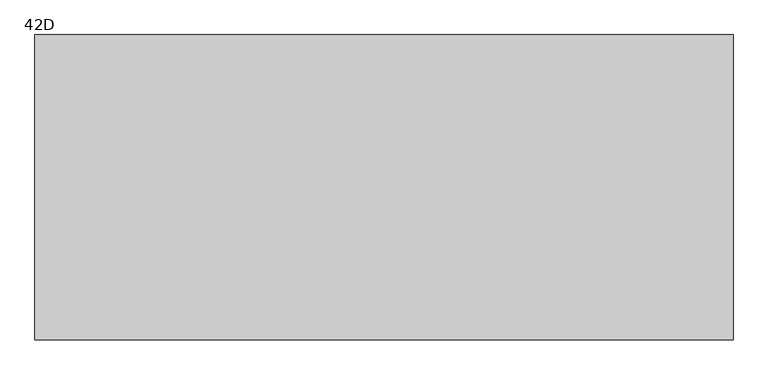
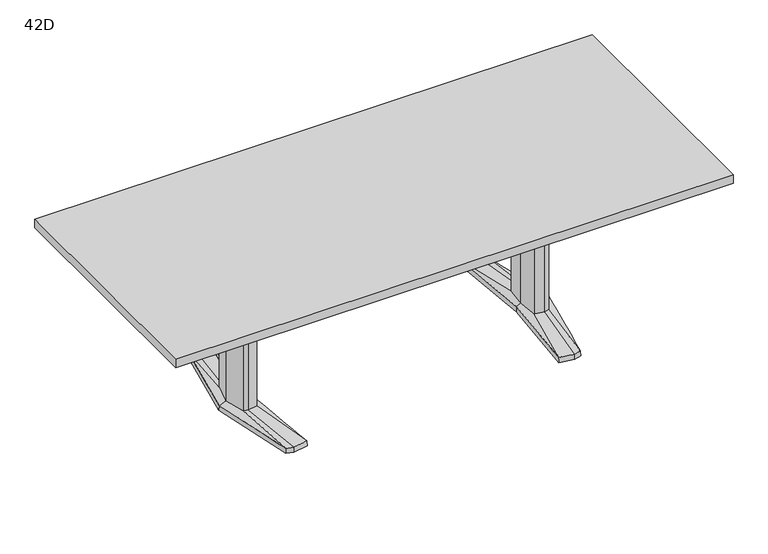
"""IFC4 building model written with IfcOpenShell, lengths in millimetres: furniture geometry, Coalesse_AM_Table_Conference_ETable2_Rectangular_96in_AluminiumBase : 42D."""

from ifc_helpers import new_model, si_unit, frame, origin, place, context, project, spatial, polyline, outline, extrude, source, transform, mapped, element, save
from ifc_brep_helpers import plane_surface, spline_surface, advanced_brep


def furniture_42d_aea06602(model_context):
    return source(origin(), model_context, "Body", "SolidModel", [
        advanced_brep(
        [(614.8503471, -379.3768856, 25.4), (644.5756636, -371.5332654, 25.4), (668.2327243, -89.293702, 36.5125), (648.9795254, -94.605478, 36.5125), (606.0521001, -87.0529327, 36.5125), (551.7612538, -368.5071562, 25.4), (597.9364207, 0.0, 36.5125), (579.8389754, 0.3970149, 25.4), (606.0521001, 87.0529327, 36.5125), (551.7615002, 368.5172593, 25.4), (648.9795254, 94.605478, 36.5125), (614.8502233, 379.3769183, 25.4), (668.2327243, 89.293702, 36.5125), (644.7535458, 371.4863276, 25.4), (692.1595251, 0.0, 36.5125), (721.4851663, 0.0003516, 25.4), (578.2468742, 0.3968871, 3.175), (550.06875, 369.8367279, 3.175), (614.9213004, 381.0, 3.175), (646.1093245, 372.7704151, 3.175), (723.10625, 0.0, 3.175), (645.9309817, -372.8174744, 3.175), (614.9213004, -381.0, 3.175), (550.06875, -369.8264415, 3.175), (649.5979264, 107.6121478, 3.175), (594.3065451, 97.8843184, 3.175), (585.1810887, 0.0, 3.175), (594.3065451, -97.8843184, 3.175), (649.5979264, -107.6121478, 3.175), (678.6183473, -99.6056872, 3.175), (705.3083085, 0.0, 3.175), (678.6183473, 99.6056872, 3.175), (613.4286812, 346.9152841, 3.175), (557.7811371, 337.3364985, 3.175), (560.1889918, 324.8641942, 3.175), (612.8600644, 333.9306305, 3.175), (648.6725609, 324.4807859, 3.175), (647.5544526, 337.9105158, 3.175), (613.4286812, -346.9152841, 3.175), (647.5544526, -337.9105158, 3.175), (648.6725609, -324.4807859, 3.175), (612.8600644, -333.9306305, 3.175), (560.1889918, -324.8641942, 3.175), (557.7811371, -337.3364985, 3.175), (649.5979264, 107.6121478, 0.0), (678.6183473, 99.6056872, 0.0), (705.3083085, 0.0, 0.0), (678.6183473, -99.6056872, 0.0), (649.5979264, -107.6121478, 0.0), (594.3065451, -97.8843184, 0.0), (585.1810887, 0.0, 0.0), (594.3065451, 97.8843184, 0.0), (613.4286812, 346.9152841, 0.0), (647.5544526, 337.9105158, 0.0), (648.6725609, 324.4807859, 0.0), (612.8600644, 333.9306305, 0.0), (560.1889918, 324.8641942, 0.0), (557.7811371, 337.3364985, 0.0), (613.4286812, -346.9152841, 0.0), (557.7811371, -337.3364985, 0.0), (560.1889918, -324.8641942, 0.0), (612.8600644, -333.9306305, 0.0), (648.6725609, -324.4807859, 0.0), (647.5544526, -337.9105158, 0.0), (668.2327243, 89.293702, 698.5), (648.9795254, 94.605478, 698.5), (606.0521001, 87.0529327, 698.5), (597.9364207, 0.0, 698.5), (606.0521001, -87.0529327, 698.5), (648.9795254, -94.605478, 698.5), (668.2327243, -89.293702, 698.5), (692.1595251, 0.0, 698.5)],
        [
            (0, 1),
            (1, 2),
            (2, 3),
            (3, 0),
            (3, 4),
            (4, 5),
            (5, 0),
            (4, 6),
            (6, 7),
            (7, 5),
            (6, 8),
            (8, 9),
            (9, 7),
            (8, 10),
            (10, 11),
            (11, 9),
            (10, 12),
            (12, 13),
            (13, 11),
            (12, 14),
            (14, 15),
            (15, 13),
            (1, 15),
            (14, 2),
            (16, 17),
            (17, 18),
            (18, 19),
            (19, 20),
            (20, 21),
            (21, 22),
            (22, 23),
            (23, 16),
            (24, 25),
            (25, 26),
            (26, 27),
            (27, 28),
            (28, 29),
            (29, 30),
            (30, 31),
            (31, 24),
            (32, 33),
            (33, 34),
            (34, 35),
            (35, 36),
            (36, 37),
            (37, 32),
            (38, 39),
            (39, 40),
            (40, 41),
            (41, 42),
            (42, 43),
            (43, 38),
            (16, 7),
            (9, 17),
            (11, 18),
            (13, 19),
            (15, 20),
            (1, 21),
            (0, 22),
            (5, 23),
            (44, 45),
            (45, 46),
            (46, 47),
            (47, 48),
            (48, 49),
            (49, 50),
            (50, 51),
            (51, 44),
            (52, 53),
            (53, 54),
            (54, 55),
            (55, 56),
            (56, 57),
            (57, 52),
            (58, 59),
            (59, 60),
            (60, 61),
            (61, 62),
            (62, 63),
            (63, 58),
            (44, 24),
            (31, 45),
            (30, 46),
            (29, 47),
            (28, 48),
            (27, 49),
            (26, 50),
            (25, 51),
            (52, 32),
            (37, 53),
            (36, 54),
            (35, 55),
            (34, 56),
            (33, 57),
            (58, 38),
            (43, 59),
            (42, 60),
            (41, 61),
            (40, 62),
            (39, 63),
            (64, 65),
            (65, 66),
            (66, 67),
            (67, 68),
            (68, 69),
            (69, 70),
            (70, 71),
            (71, 64),
            (71, 14),
            (12, 64),
            (70, 2),
            (69, 3),
            (68, 4),
            (67, 6),
            (66, 8),
            (65, 10),
        ],
        [
            spline_surface(1, 1, [[(644.5756636, -371.5332654, 25.4), (614.8503471, -379.3768856, 25.4)], [(668.2327243, -89.293702, 36.5125), (648.9795254, -94.605478, 36.5125)]], [2, 2], [2, 2], [0.0, 1.0], [0.0, 1.0]),
            spline_surface(1, 1, [[(614.8503471, -379.3768856, 25.4), (551.7612538, -368.5071562, 25.4)], [(648.9795254, -94.605478, 36.5125), (606.0521001, -87.0529327, 36.5125)]], [2, 2], [2, 2], [0.0, 1.0], [0.0, 1.0]),
            spline_surface(1, 1, [[(551.7612538, -368.5071562, 25.4), (579.8389754, 0.3970149, 25.4)], [(606.0521001, -87.0529327, 36.5125), (597.9364207, 0.0, 36.5125)]], [2, 2], [2, 2], [0.0, 1.0], [0.0, 1.0]),
            spline_surface(1, 1, [[(579.8389754, 0.3970149, 25.4), (551.7615002, 368.5172593, 25.4)], [(597.9364207, 0.0, 36.5125), (606.0521001, 87.0529327, 36.5125)]], [2, 2], [2, 2], [0.0, 1.0], [0.0, 1.0]),
            spline_surface(1, 1, [[(551.7615002, 368.5172593, 25.4), (614.8502233, 379.3769183, 25.4)], [(606.0521001, 87.0529327, 36.5125), (648.9795254, 94.605478, 36.5125)]], [2, 2], [2, 2], [0.0, 1.0], [0.0, 1.0]),
            spline_surface(1, 1, [[(614.8502233, 379.3769183, 25.4), (644.7535458, 371.4863276, 25.4)], [(648.9795254, 94.605478, 36.5125), (668.2327243, 89.293702, 36.5125)]], [2, 2], [2, 2], [0.0, 1.0], [0.0, 1.0]),
            spline_surface(1, 1, [[(644.7535458, 371.4863276, 25.4), (721.4851663, 0.0003516, 25.4)], [(668.2327243, 89.293702, 36.5125), (692.1595251, 0.0, 36.5125)]], [2, 2], [2, 2], [0.0, 1.0], [0.0, 1.0]),
            spline_surface(1, 1, [[(721.4851663, 0.0003516, 25.4), (644.5756636, -371.5332654, 25.4)], [(692.1595251, 0.0, 36.5125), (668.2327243, -89.293702, 36.5125)]], [2, 2], [2, 2], [0.0, 1.0], [0.0, 1.0]),
            plane_surface(frame((615.4216914, 0.0450143, 3.175), z_axis=(0.0, 0.0, -1.0), x_axis=(-0.9669048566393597, -0.2551372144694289, 0.0))),
            plane_surface(frame((564.1578121, 185.1168075, 3.175), z_axis=(-0.9945699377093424, -0.07585840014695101, 0.0712470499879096), x_axis=(-0.07605167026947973, 0.9971038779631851, 0.0))),
            plane_surface(frame((582.4950252, 375.418364, 3.175), z_axis=(-0.1692071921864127, 0.9830019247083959, 0.07124704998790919), x_axis=(0.985506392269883, 0.16963829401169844, 0.0))),
            plane_surface(frame((630.5153124, 376.8852076, 3.175), z_axis=(0.2544888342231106, 0.9644476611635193, 0.07124704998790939), x_axis=(0.9669048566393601, -0.25513721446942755, 0.0))),
            plane_surface(frame((684.6077872, 186.3852076, 3.175), z_axis=(0.9768383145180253, 0.2017690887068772, 0.07124704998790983), x_axis=(0.20228315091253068, -0.9793270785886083, 0.0))),
            plane_surface(frame((684.5186158, -186.4087372, 3.175), z_axis=(0.9767507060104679, -0.20219276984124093, 0.07124704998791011), x_axis=(-0.2027079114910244, -0.9792392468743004, 0.0))),
            plane_surface(frame((630.426141, -376.9087372, 3.175), z_axis=(0.2544888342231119, -0.9644476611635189, 0.0712470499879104), x_axis=(-0.9669048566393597, -0.2551372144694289, 0.0))),
            plane_surface(frame((582.4950252, -375.4132207, 3.175), z_axis=(-0.16935861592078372, -0.982975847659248, 0.07124704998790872), x_axis=(-0.9854802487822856, 0.16979010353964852, 0.0))),
            plane_surface(frame((564.1578121, -184.7147772, 3.175), z_axis=(-0.9945820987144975, 0.07569878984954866, 0.07124704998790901), x_axis=(0.07589165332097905, 0.9971160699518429, 0.0))),
            plane_surface(frame((652.3571479, 106.8509046, 0.0), z_axis=(0.0, 0.0, -1.0000000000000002), x_axis=(-0.9639855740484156, 0.26595453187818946, 0.0))),
            plane_surface(frame((649.5979264, 107.6121478, 3.175), z_axis=(0.26595453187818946, 0.9639855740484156, 0.0), x_axis=(0.0, 0.0, -1.0))),
            plane_surface(frame((678.6183473, 99.6056872, 3.175), z_axis=(0.9659241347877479, 0.2588253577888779, 0.0), x_axis=(0.0, 0.0, -1.0))),
            plane_surface(frame((705.3083085, 0.0, 3.175), z_axis=(0.9659241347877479, -0.2588253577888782, 0.0), x_axis=(0.0, 0.0, -1.0))),
            plane_surface(frame((678.6183473, -99.6056872, 3.175), z_axis=(0.26595453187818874, -0.9639855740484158, 0.0), x_axis=(0.0, 0.0, -1.0))),
            plane_surface(frame((649.5979264, -107.6121478, 3.175), z_axis=(-0.17327617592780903, -0.9848732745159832, 0.0), x_axis=(0.0, 0.0, -1.0))),
            plane_surface(frame((594.3065451, -97.8843184, 3.175), z_axis=(-0.9956824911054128, -0.0928244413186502, 0.0), x_axis=(0.0, 0.0, -1.0))),
            plane_surface(frame((585.1810887, 0.0, 3.175), z_axis=(-0.9956824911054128, 0.09282444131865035, 0.0), x_axis=(0.0, 0.0, -1.0))),
            plane_surface(frame((594.3065451, 97.8843184, 3.175), z_axis=(-0.17327617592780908, 0.984873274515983, 0.0), x_axis=(0.0, 0.0, -1.0))),
            plane_surface(frame((613.4286812, 346.9152841, 3.175), z_axis=(0.25513721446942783, 0.9669048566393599, 0.0), x_axis=(0.0, 0.0, -1.0))),
            plane_surface(frame((647.5544526, 337.9105158, 3.175), z_axis=(0.9965521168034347, 0.0829691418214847, 0.0), x_axis=(0.0, 0.0, -1.0))),
            plane_surface(frame((648.6725609, 324.4807859, 3.175), z_axis=(-0.25513721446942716, -0.9669048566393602, 0.0), x_axis=(0.0, 0.0, -1.0))),
            plane_surface(frame((612.8600644, 333.9306305, 3.175), z_axis=(0.16963829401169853, -0.985506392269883, 0.0), x_axis=(0.0, 0.0, -1.0))),
            plane_surface(frame((560.1889918, 324.8641942, 3.175), z_axis=(-0.9818699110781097, -0.18955600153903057, 0.0), x_axis=(0.0, 0.0, -1.0))),
            plane_surface(frame((557.7811371, 337.3364985, 3.175), z_axis=(-0.16963829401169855, 0.9855063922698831, 0.0), x_axis=(0.0, 0.0, -1.0))),
            plane_surface(frame((613.4286812, -346.9152841, 3.175), z_axis=(-0.1696382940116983, -0.9855063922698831, 0.0), x_axis=(0.0, 0.0, -1.0))),
            plane_surface(frame((557.7811371, -337.3364985, 3.175), z_axis=(-0.9818699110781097, 0.18955600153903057, 0.0), x_axis=(0.0, 0.0, -1.0))),
            plane_surface(frame((560.1889918, -324.8641942, 3.175), z_axis=(0.16963829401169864, 0.985506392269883, 0.0), x_axis=(0.0, 0.0, -1.0))),
            plane_surface(frame((612.8600644, -333.9306305, 3.175), z_axis=(-0.2551372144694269, 0.9669048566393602, 0.0), x_axis=(0.0, 0.0, -1.0))),
            plane_surface(frame((648.6725609, -324.4807859, 3.175), z_axis=(0.9965521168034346, -0.0829691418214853, 0.0), x_axis=(0.0, 0.0, -1.0))),
            plane_surface(frame((647.5544526, -337.9105158, 3.175), z_axis=(0.2551372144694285, -0.9669048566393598, 0.0), x_axis=(0.0, 0.0, -1.0))),
            plane_surface(frame((692.1595251, 0.0, 698.5), z_axis=(0.0, 0.0, 1.0), x_axis=(0.25882535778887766, -0.965924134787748, 0.0))),
            plane_surface(frame((668.2327243, 89.293702, 698.5), z_axis=(0.965924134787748, 0.25882535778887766, 0.0), x_axis=(0.0, 0.0, -1.0))),
            plane_surface(frame((692.1595251, 0.0, 698.5), z_axis=(0.965924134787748, -0.2588253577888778, 0.0), x_axis=(0.0, 0.0, -1.0))),
            plane_surface(frame((668.2327243, -89.293702, 698.5), z_axis=(0.2659545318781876, -0.963985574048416, 0.0), x_axis=(0.0, 0.0, -1.0))),
            plane_surface(frame((648.9795254, -94.605478, 698.5), z_axis=(-0.1732761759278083, -0.9848732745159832, 0.0), x_axis=(0.0, 0.0, -1.0))),
            plane_surface(frame((606.0521001, -87.0529327, 698.5), z_axis=(-0.9956824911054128, -0.0928244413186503, 0.0), x_axis=(0.0, 0.0, -1.0))),
            plane_surface(frame((597.9364207, 0.0, 698.5), z_axis=(-0.9956824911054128, 0.09282444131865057, 0.0), x_axis=(0.0, 0.0, -1.0))),
            plane_surface(frame((606.0521001, 87.0529327, 698.5), z_axis=(-0.17327617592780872, 0.9848732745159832, 0.0), x_axis=(0.0, 0.0, -1.0))),
            plane_surface(frame((648.9795254, 94.605478, 698.5), z_axis=(0.26595453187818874, 0.9639855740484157, 0.0), x_axis=(0.0, 0.0, -1.0))),
        ],
        [
            (0, [[1, 2, 3, 4]]),
            (1, [[5, 6, 7, -4]]),
            (2, [[8, 9, 10, -6]]),
            (3, [[11, 12, 13, -9]]),
            (4, [[14, 15, 16, -12]]),
            (5, [[17, 18, 19, -15]]),
            (6, [[20, 21, 22, -18]]),
            (7, [[23, -21, 24, -2]]),
            (8, [[25, 26, 27, 28, 29, 30, 31, 32], [33, 34, 35, 36, 37, 38, 39, 40], [41, 42, 43, 44, 45, 46], [47, 48, 49, 50, 51, 52]]),
            (9, [[53, -13, 54, -25]]),
            (10, [[-54, -16, 55, -26]]),
            (11, [[-55, -19, 56, -27]]),
            (12, [[-56, -22, 57, -28]]),
            (13, [[-57, -23, 58, -29]]),
            (14, [[-58, -1, 59, -30]]),
            (15, [[-59, -7, 60, -31]]),
            (16, [[-60, -10, -53, -32]]),
            (17, [[61, 62, 63, 64, 65, 66, 67, 68]]),
            (17, [[69, 70, 71, 72, 73, 74]]),
            (17, [[75, 76, 77, 78, 79, 80]]),
            (18, [[81, -40, 82, -61]]),
            (19, [[-82, -39, 83, -62]]),
            (20, [[-83, -38, 84, -63]]),
            (21, [[-84, -37, 85, -64]]),
            (22, [[-85, -36, 86, -65]]),
            (23, [[-86, -35, 87, -66]]),
            (24, [[-87, -34, 88, -67]]),
            (25, [[-88, -33, -81, -68]]),
            (26, [[89, -46, 90, -69]]),
            (27, [[-90, -45, 91, -70]]),
            (28, [[-91, -44, 92, -71]]),
            (29, [[-92, -43, 93, -72]]),
            (30, [[-93, -42, 94, -73]]),
            (31, [[-94, -41, -89, -74]]),
            (32, [[95, -52, 96, -75]]),
            (33, [[-96, -51, 97, -76]]),
            (34, [[-97, -50, 98, -77]]),
            (35, [[-98, -49, 99, -78]]),
            (36, [[-99, -48, 100, -79]]),
            (37, [[-100, -47, -95, -80]]),
            (38, [[101, 102, 103, 104, 105, 106, 107, 108]]),
            (39, [[109, -20, 110, -108]]),
            (40, [[111, -24, -109, -107]]),
            (41, [[112, -3, -111, -106]]),
            (42, [[113, -5, -112, -105]]),
            (43, [[114, -8, -113, -104]]),
            (44, [[115, -11, -114, -103]]),
            (45, [[116, -14, -115, -102]]),
            (46, [[-110, -17, -116, -101]]),
        ],
    ),
        advanced_brep(
        [(-614.8503471, -379.3768856, 25.4), (-648.9795254, -94.605478, 36.5125), (-668.2327243, -89.293702, 36.5125), (-644.5756636, -371.5332654, 25.4), (-551.7612538, -368.5071562, 25.4), (-606.0521001, -87.0529327, 36.5125), (-579.8389754, 0.3970149, 25.4), (-597.9364207, 0.0, 36.5125), (-551.7615002, 368.5172593, 25.4), (-606.0521001, 87.0529327, 36.5125), (-614.8502233, 379.3769183, 25.4), (-648.9795254, 94.605478, 36.5125), (-644.7535458, 371.4863276, 25.4), (-668.2327243, 89.293702, 36.5125), (-721.4851663, 0.0003516, 25.4), (-692.1595251, 0.0, 36.5125), (-578.2468742, 0.3968871, 3.175), (-550.06875, -369.8264415, 3.175), (-614.9213004, -381.0, 3.175), (-645.9309817, -372.8174744, 3.175), (-723.10625, 0.0, 3.175), (-646.1093245, 372.7704151, 3.175), (-614.9213004, 381.0, 3.175), (-550.06875, 369.8367279, 3.175), (-649.5979264, 107.6121478, 3.175), (-678.6183473, 99.6056872, 3.175), (-705.3083085, 0.0, 3.175), (-678.6183473, -99.6056872, 3.175), (-649.5979264, -107.6121478, 3.175), (-594.3065451, -97.8843184, 3.175), (-585.1810887, 0.0, 3.175), (-594.3065451, 97.8843184, 3.175), (-613.4286812, 346.9152841, 3.175), (-647.5544526, 337.9105158, 3.175), (-648.6725609, 324.4807859, 3.175), (-612.8600644, 333.9306305, 3.175), (-560.1889918, 324.8641942, 3.175), (-557.7811371, 337.3364985, 3.175), (-613.4286812, -346.9152841, 3.175), (-557.7811371, -337.3364985, 3.175), (-560.1889918, -324.8641942, 3.175), (-612.8600644, -333.9306305, 3.175), (-648.6725609, -324.4807859, 3.175), (-647.5544526, -337.9105158, 3.175), (-649.5979264, 107.6121478, 0.0), (-594.3065451, 97.8843184, 0.0), (-585.1810887, 0.0, 0.0), (-594.3065451, -97.8843184, 0.0), (-649.5979264, -107.6121478, 0.0), (-678.6183473, -99.6056872, 0.0), (-705.3083085, 0.0, 0.0), (-678.6183473, 99.6056872, 0.0), (-613.4286812, 346.9152841, 0.0), (-557.7811371, 337.3364985, 0.0), (-560.1889918, 324.8641942, 0.0), (-612.8600644, 333.9306305, 0.0), (-648.6725609, 324.4807859, 0.0), (-647.5544526, 337.9105158, 0.0), (-613.4286812, -346.9152841, 0.0), (-647.5544526, -337.9105158, 0.0), (-648.6725609, -324.4807859, 0.0), (-612.8600644, -333.9306305, 0.0), (-560.1889918, -324.8641942, 0.0), (-557.7811371, -337.3364985, 0.0), (-668.2327243, 89.293702, 698.5), (-692.1595251, 0.0, 698.5), (-668.2327243, -89.293702, 698.5), (-648.9795254, -94.605478, 698.5), (-606.0521001, -87.0529327, 698.5), (-597.9364207, 0.0, 698.5), (-606.0521001, 87.0529327, 698.5), (-648.9795254, 94.605478, 698.5)],
        [
            (0, 1),
            (1, 2),
            (2, 3),
            (3, 0),
            (0, 4),
            (4, 5),
            (5, 1),
            (4, 6),
            (6, 7),
            (7, 5),
            (6, 8),
            (8, 9),
            (9, 7),
            (8, 10),
            (10, 11),
            (11, 9),
            (10, 12),
            (12, 13),
            (13, 11),
            (12, 14),
            (14, 15),
            (15, 13),
            (2, 15),
            (14, 3),
            (16, 17),
            (17, 18),
            (18, 19),
            (19, 20),
            (20, 21),
            (21, 22),
            (22, 23),
            (23, 16),
            (24, 25),
            (25, 26),
            (26, 27),
            (27, 28),
            (28, 29),
            (29, 30),
            (30, 31),
            (31, 24),
            (32, 33),
            (33, 34),
            (34, 35),
            (35, 36),
            (36, 37),
            (37, 32),
            (38, 39),
            (39, 40),
            (40, 41),
            (41, 42),
            (42, 43),
            (43, 38),
            (23, 8),
            (6, 16),
            (22, 10),
            (21, 12),
            (20, 14),
            (19, 3),
            (18, 0),
            (17, 4),
            (44, 45),
            (45, 46),
            (46, 47),
            (47, 48),
            (48, 49),
            (49, 50),
            (50, 51),
            (51, 44),
            (52, 53),
            (53, 54),
            (54, 55),
            (55, 56),
            (56, 57),
            (57, 52),
            (58, 59),
            (59, 60),
            (60, 61),
            (61, 62),
            (62, 63),
            (63, 58),
            (51, 25),
            (24, 44),
            (50, 26),
            (49, 27),
            (48, 28),
            (47, 29),
            (46, 30),
            (45, 31),
            (57, 33),
            (32, 52),
            (56, 34),
            (55, 35),
            (54, 36),
            (53, 37),
            (63, 39),
            (38, 58),
            (62, 40),
            (61, 41),
            (60, 42),
            (59, 43),
            (64, 65),
            (65, 66),
            (66, 67),
            (67, 68),
            (68, 69),
            (69, 70),
            (70, 71),
            (71, 64),
            (64, 13),
            (15, 65),
            (2, 66),
            (1, 67),
            (5, 68),
            (7, 69),
            (9, 70),
            (11, 71),
        ],
        [
            spline_surface(1, 1, [[(-644.5756636, -371.5332654, 25.4), (-668.2327243, -89.293702, 36.5125)], [(-614.8503471, -379.3768856, 25.4), (-648.9795254, -94.605478, 36.5125)]], [2, 2], [2, 2], [0.0, 1.0], [0.0, 1.0]),
            spline_surface(1, 1, [[(-614.8503471, -379.3768856, 25.4), (-648.9795254, -94.605478, 36.5125)], [(-551.7612538, -368.5071562, 25.4), (-606.0521001, -87.0529327, 36.5125)]], [2, 2], [2, 2], [0.0, 1.0], [0.0, 1.0]),
            spline_surface(1, 1, [[(-551.7612538, -368.5071562, 25.4), (-606.0521001, -87.0529327, 36.5125)], [(-579.8389754, 0.3970149, 25.4), (-597.9364207, 0.0, 36.5125)]], [2, 2], [2, 2], [0.0, 1.0], [0.0, 1.0]),
            spline_surface(1, 1, [[(-579.8389754, 0.3970149, 25.4), (-597.9364207, 0.0, 36.5125)], [(-551.7615002, 368.5172593, 25.4), (-606.0521001, 87.0529327, 36.5125)]], [2, 2], [2, 2], [0.0, 1.0], [0.0, 1.0]),
            spline_surface(1, 1, [[(-551.7615002, 368.5172593, 25.4), (-606.0521001, 87.0529327, 36.5125)], [(-614.8502233, 379.3769183, 25.4), (-648.9795254, 94.605478, 36.5125)]], [2, 2], [2, 2], [0.0, 1.0], [0.0, 1.0]),
            spline_surface(1, 1, [[(-614.8502233, 379.3769183, 25.4), (-648.9795254, 94.605478, 36.5125)], [(-644.7535458, 371.4863276, 25.4), (-668.2327243, 89.293702, 36.5125)]], [2, 2], [2, 2], [0.0, 1.0], [0.0, 1.0]),
            spline_surface(1, 1, [[(-644.7535458, 371.4863276, 25.4), (-668.2327243, 89.293702, 36.5125)], [(-721.4851663, 0.0003516, 25.4), (-692.1595251, 0.0, 36.5125)]], [2, 2], [2, 2], [0.0, 1.0], [0.0, 1.0]),
            spline_surface(1, 1, [[(-721.4851663, 0.0003516, 25.4), (-692.1595251, 0.0, 36.5125)], [(-644.5756636, -371.5332654, 25.4), (-668.2327243, -89.293702, 36.5125)]], [2, 2], [2, 2], [0.0, 1.0], [0.0, 1.0]),
            plane_surface(frame((-615.4216914, 0.0450143, 3.175), z_axis=(0.0, 0.0, -1.0), x_axis=(0.9669048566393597, -0.2551372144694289, 0.0))),
            plane_surface(frame((-564.1578121, 185.1168075, 3.175), z_axis=(0.9945699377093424, -0.07585840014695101, 0.0712470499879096), x_axis=(0.07605167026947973, 0.9971038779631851, 0.0))),
            plane_surface(frame((-582.4950252, 375.418364, 3.175), z_axis=(0.1692071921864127, 0.9830019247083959, 0.07124704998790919), x_axis=(-0.985506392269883, 0.16963829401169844, 0.0))),
            plane_surface(frame((-630.5153124, 376.8852076, 3.175), z_axis=(-0.2544888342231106, 0.9644476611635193, 0.07124704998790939), x_axis=(-0.9669048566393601, -0.25513721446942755, 0.0))),
            plane_surface(frame((-684.6077872, 186.3852076, 3.175), z_axis=(-0.9768383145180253, 0.2017690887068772, 0.07124704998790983), x_axis=(-0.20228315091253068, -0.9793270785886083, 0.0))),
            plane_surface(frame((-684.5186158, -186.4087372, 3.175), z_axis=(-0.9767507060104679, -0.20219276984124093, 0.07124704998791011), x_axis=(0.2027079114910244, -0.9792392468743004, 0.0))),
            plane_surface(frame((-630.426141, -376.9087372, 3.175), z_axis=(-0.2544888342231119, -0.9644476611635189, 0.0712470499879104), x_axis=(0.9669048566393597, -0.2551372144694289, 0.0))),
            plane_surface(frame((-582.4950252, -375.4132207, 3.175), z_axis=(0.16935861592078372, -0.982975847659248, 0.07124704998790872), x_axis=(0.9854802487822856, 0.16979010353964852, 0.0))),
            plane_surface(frame((-564.1578121, -184.7147772, 3.175), z_axis=(0.9945820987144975, 0.07569878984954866, 0.07124704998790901), x_axis=(-0.07589165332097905, 0.9971160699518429, 0.0))),
            plane_surface(frame((-652.3571479, 106.8509046, 0.0), z_axis=(0.0, 0.0, -1.0000000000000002), x_axis=(0.9639855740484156, 0.26595453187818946, 0.0))),
            plane_surface(frame((-649.5979264, 107.6121478, 3.175), z_axis=(-0.26595453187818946, 0.9639855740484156, 0.0), x_axis=(0.0, 0.0, -1.0))),
            plane_surface(frame((-678.6183473, 99.6056872, 3.175), z_axis=(-0.9659241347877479, 0.2588253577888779, 0.0), x_axis=(0.0, 0.0, -1.0))),
            plane_surface(frame((-705.3083085, 0.0, 3.175), z_axis=(-0.9659241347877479, -0.2588253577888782, 0.0), x_axis=(0.0, 0.0, -1.0))),
            plane_surface(frame((-678.6183473, -99.6056872, 3.175), z_axis=(-0.26595453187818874, -0.9639855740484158, 0.0), x_axis=(0.0, 0.0, -1.0))),
            plane_surface(frame((-649.5979264, -107.6121478, 3.175), z_axis=(0.17327617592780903, -0.9848732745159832, 0.0), x_axis=(0.0, 0.0, -1.0))),
            plane_surface(frame((-594.3065451, -97.8843184, 3.175), z_axis=(0.9956824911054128, -0.0928244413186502, 0.0), x_axis=(0.0, 0.0, -1.0))),
            plane_surface(frame((-585.1810887, 0.0, 3.175), z_axis=(0.9956824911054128, 0.09282444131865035, 0.0), x_axis=(0.0, 0.0, -1.0))),
            plane_surface(frame((-594.3065451, 97.8843184, 3.175), z_axis=(0.17327617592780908, 0.984873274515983, 0.0), x_axis=(0.0, 0.0, -1.0))),
            plane_surface(frame((-613.4286812, 346.9152841, 3.175), z_axis=(-0.25513721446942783, 0.9669048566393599, 0.0), x_axis=(0.0, 0.0, -1.0))),
            plane_surface(frame((-647.5544526, 337.9105158, 3.175), z_axis=(-0.9965521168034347, 0.0829691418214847, 0.0), x_axis=(0.0, 0.0, -1.0))),
            plane_surface(frame((-648.6725609, 324.4807859, 3.175), z_axis=(0.25513721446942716, -0.9669048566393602, 0.0), x_axis=(0.0, 0.0, -1.0))),
            plane_surface(frame((-612.8600644, 333.9306305, 3.175), z_axis=(-0.16963829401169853, -0.985506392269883, 0.0), x_axis=(0.0, 0.0, -1.0))),
            plane_surface(frame((-560.1889918, 324.8641942, 3.175), z_axis=(0.9818699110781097, -0.18955600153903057, 0.0), x_axis=(0.0, 0.0, -1.0))),
            plane_surface(frame((-557.7811371, 337.3364985, 3.175), z_axis=(0.16963829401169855, 0.9855063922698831, 0.0), x_axis=(0.0, 0.0, -1.0))),
            plane_surface(frame((-613.4286812, -346.9152841, 3.175), z_axis=(0.1696382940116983, -0.9855063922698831, 0.0), x_axis=(0.0, 0.0, -1.0))),
            plane_surface(frame((-557.7811371, -337.3364985, 3.175), z_axis=(0.9818699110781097, 0.18955600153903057, 0.0), x_axis=(0.0, 0.0, -1.0))),
            plane_surface(frame((-560.1889918, -324.8641942, 3.175), z_axis=(-0.16963829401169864, 0.985506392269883, 0.0), x_axis=(0.0, 0.0, -1.0))),
            plane_surface(frame((-612.8600644, -333.9306305, 3.175), z_axis=(0.2551372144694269, 0.9669048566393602, 0.0), x_axis=(0.0, 0.0, -1.0))),
            plane_surface(frame((-648.6725609, -324.4807859, 3.175), z_axis=(-0.9965521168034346, -0.0829691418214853, 0.0), x_axis=(0.0, 0.0, -1.0))),
            plane_surface(frame((-647.5544526, -337.9105158, 3.175), z_axis=(-0.2551372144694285, -0.9669048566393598, 0.0), x_axis=(0.0, 0.0, -1.0))),
            plane_surface(frame((-692.1595251, 0.0, 698.5), z_axis=(0.0, 0.0, 1.0), x_axis=(-0.25882535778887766, -0.965924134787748, 0.0))),
            plane_surface(frame((-668.2327243, 89.293702, 698.5), z_axis=(-0.965924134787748, 0.25882535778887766, 0.0), x_axis=(0.0, 0.0, -1.0))),
            plane_surface(frame((-692.1595251, 0.0, 698.5), z_axis=(-0.965924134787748, -0.2588253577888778, 0.0), x_axis=(0.0, 0.0, -1.0))),
            plane_surface(frame((-668.2327243, -89.293702, 698.5), z_axis=(-0.2659545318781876, -0.963985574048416, 0.0), x_axis=(0.0, 0.0, -1.0))),
            plane_surface(frame((-648.9795254, -94.605478, 698.5), z_axis=(0.1732761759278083, -0.9848732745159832, 0.0), x_axis=(0.0, 0.0, -1.0))),
            plane_surface(frame((-606.0521001, -87.0529327, 698.5), z_axis=(0.9956824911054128, -0.0928244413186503, 0.0), x_axis=(0.0, 0.0, -1.0))),
            plane_surface(frame((-597.9364207, 0.0, 698.5), z_axis=(0.9956824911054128, 0.09282444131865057, 0.0), x_axis=(0.0, 0.0, -1.0))),
            plane_surface(frame((-606.0521001, 87.0529327, 698.5), z_axis=(0.17327617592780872, 0.9848732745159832, 0.0), x_axis=(0.0, 0.0, -1.0))),
            plane_surface(frame((-648.9795254, 94.605478, 698.5), z_axis=(-0.26595453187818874, 0.9639855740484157, 0.0), x_axis=(0.0, 0.0, -1.0))),
        ],
        [
            (0, [[1, 2, 3, 4]]),
            (1, [[-1, 5, 6, 7]]),
            (2, [[-6, 8, 9, 10]]),
            (3, [[-9, 11, 12, 13]]),
            (4, [[-12, 14, 15, 16]]),
            (5, [[-15, 17, 18, 19]]),
            (6, [[-18, 20, 21, 22]]),
            (7, [[-3, 23, -21, 24]]),
            (8, [[25, 26, 27, 28, 29, 30, 31, 32], [33, 34, 35, 36, 37, 38, 39, 40], [41, 42, 43, 44, 45, 46], [47, 48, 49, 50, 51, 52]]),
            (9, [[-32, 53, -11, 54]]),
            (10, [[-31, 55, -14, -53]]),
            (11, [[-30, 56, -17, -55]]),
            (12, [[-29, 57, -20, -56]]),
            (13, [[-28, 58, -24, -57]]),
            (14, [[-27, 59, -4, -58]]),
            (15, [[-26, 60, -5, -59]]),
            (16, [[-25, -54, -8, -60]]),
            (17, [[61, 62, 63, 64, 65, 66, 67, 68]]),
            (17, [[69, 70, 71, 72, 73, 74]]),
            (17, [[75, 76, 77, 78, 79, 80]]),
            (18, [[-68, 81, -33, 82]]),
            (19, [[-67, 83, -34, -81]]),
            (20, [[-66, 84, -35, -83]]),
            (21, [[-65, 85, -36, -84]]),
            (22, [[-64, 86, -37, -85]]),
            (23, [[-63, 87, -38, -86]]),
            (24, [[-62, 88, -39, -87]]),
            (25, [[-61, -82, -40, -88]]),
            (26, [[-74, 89, -41, 90]]),
            (27, [[-73, 91, -42, -89]]),
            (28, [[-72, 92, -43, -91]]),
            (29, [[-71, 93, -44, -92]]),
            (30, [[-70, 94, -45, -93]]),
            (31, [[-69, -90, -46, -94]]),
            (32, [[-80, 95, -47, 96]]),
            (33, [[-79, 97, -48, -95]]),
            (34, [[-78, 98, -49, -97]]),
            (35, [[-77, 99, -50, -98]]),
            (36, [[-76, 100, -51, -99]]),
            (37, [[-75, -96, -52, -100]]),
            (38, [[101, 102, 103, 104, 105, 106, 107, 108]]),
            (39, [[-101, 109, -22, 110]]),
            (40, [[-102, -110, -23, 111]]),
            (41, [[-103, -111, -2, 112]]),
            (42, [[-104, -112, -7, 113]]),
            (43, [[-105, -113, -10, 114]]),
            (44, [[-106, -114, -13, 115]]),
            (45, [[-107, -115, -16, 116]]),
            (46, [[-108, -116, -19, -109]]),
        ],
    ),
        extrude(outline(polyline([(96.8375, 698.5), (103.1875, 698.5), (103.1875, 476.25), (-103.1875, 476.25), (-103.1875, 698.5), (-96.8375, 698.5), (-96.8375, 482.6), (96.8375, 482.6), (96.8375, 698.5)])), frame((-597.9364207, 0.0, 0.0), z_axis=(1.0, 0.0, 0.0), x_axis=(0.0, 1.0, 0.0)), (0.0, 0.0, 1.0), 1195.8728415),
        extrude(outline(polyline([(-1219.2, -533.4), (-1219.2, 533.4), (1219.2, 533.4), (1219.2, -533.4), (-1219.2, -533.4)])), frame((0.0, 0.0, 698.5), z_axis=(0.0, 0.0, 1.0), x_axis=(1.0, 0.0, 0.0)), (0.0, 0.0, 1.0), 38.1),
    ])


if __name__ == "__main__":
    model = new_model("IFC4")
    model_context = context("Model", 3, world=origin())
    ifc_project = project(units=[si_unit("LENGTHUNIT", "METRE", prefix="MILLI")], contexts=[model_context])
    site = spatial("IfcSite", under=ifc_project)
    building = spatial("IfcBuilding", under=site)
    placement = place(None, origin())
    furniture_42d_shape = furniture_42d_aea06602(model_context)
    element("IfcFurniture", 1, ObjectType="Coalesse_AM_Table_Conference_ETable2_Rectangular_96in_AluminiumBase : 42D", at=placement, inside=building, context=model_context, shape_type="MappedRepresentation", body=[
        mapped(furniture_42d_shape, transform((0.0, 0.0, 0.0), x_axis=(1.0, 0.0, 0.0), y_axis=(0.0, 1.0, 0.0), z_axis=(0.0, 0.0, 1.0))),
    ])
    save(model, "model.ifc")
